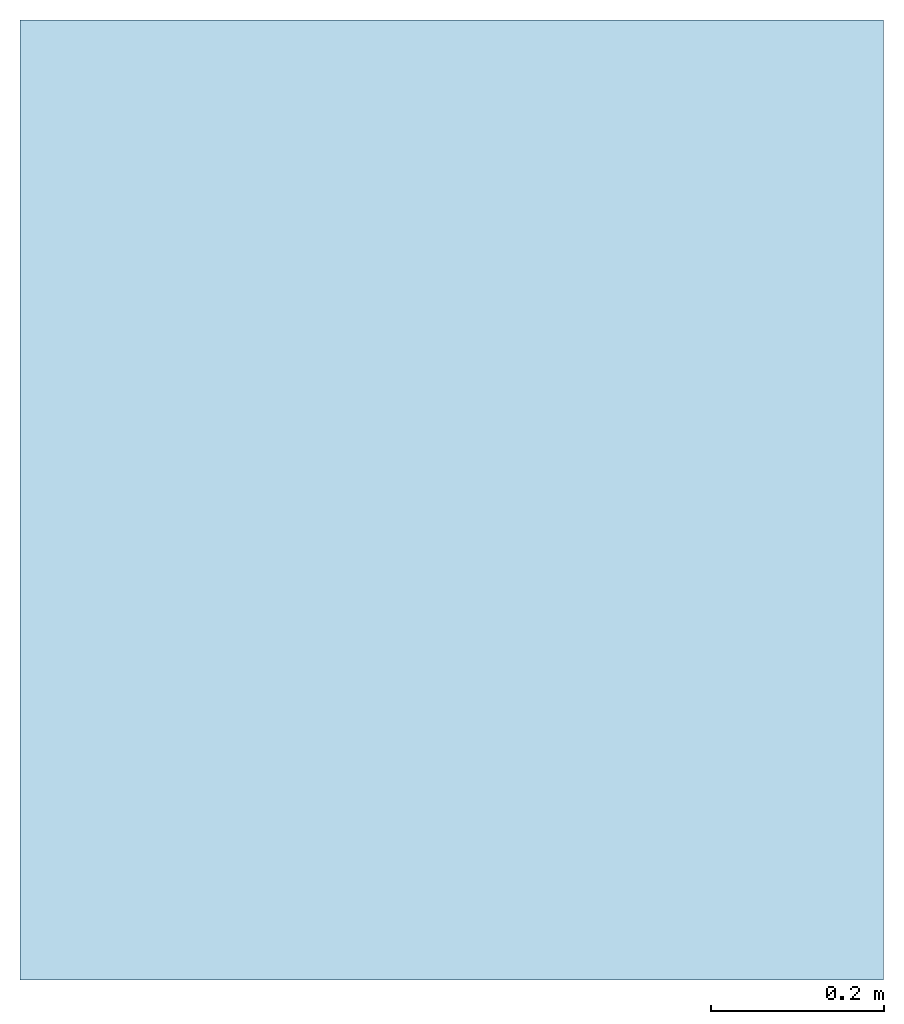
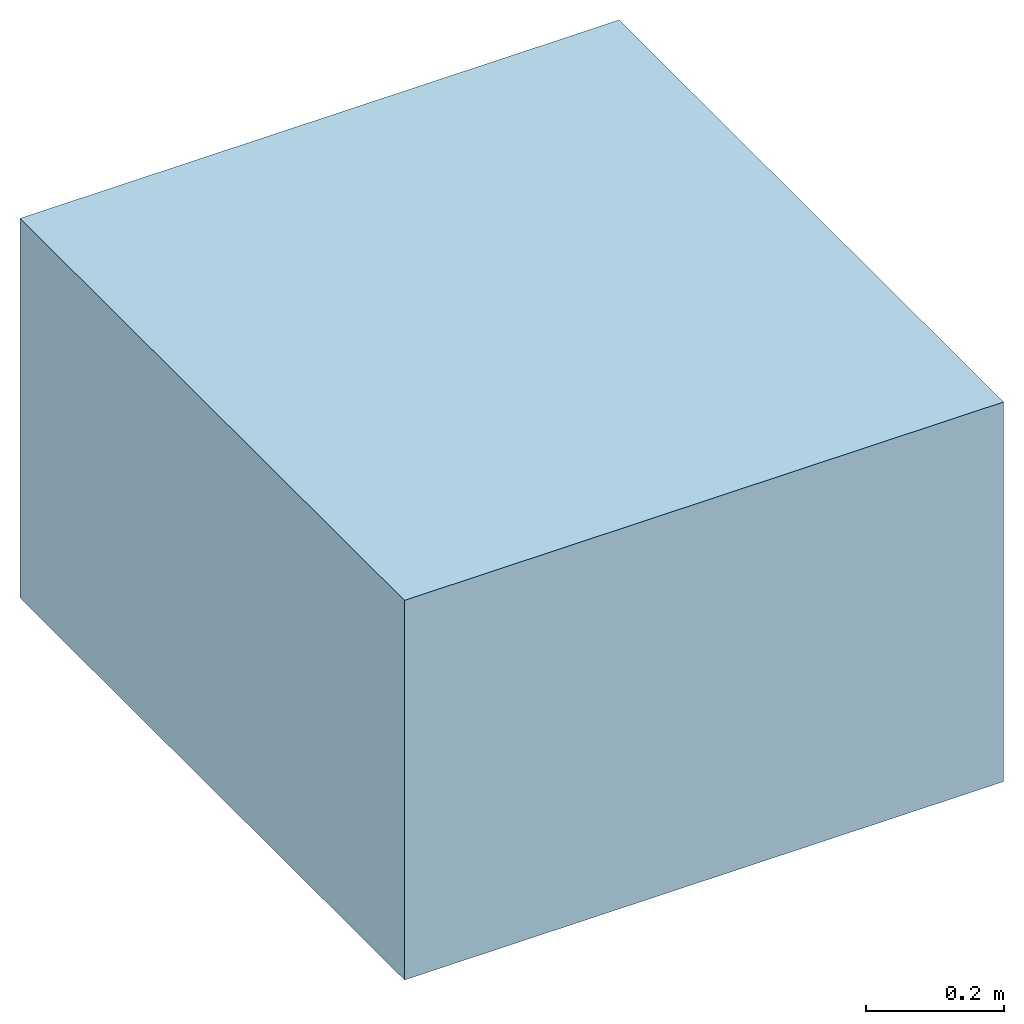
# One storey: 1 slab.
"""IFC4 building model written with IfcOpenShell, lengths in metres."""

import ifcopenshell
import ifcopenshell.guid

model = None  # the IFC model being written
_history = None  # IfcOwnerHistory: only IFC2X3 demands one
_inside = {}  # id of a spatial element -> (the spatial element, [elements in it])
_under = {}  # id of a project, library or spatial element -> (it, [spatial elements below it])
_declared = {}  # id of a project -> (the project, [libraries it declares])
_typed = {}  # id of a type object -> (the type object, [elements of that type])
_made_of = {}  # id of a material, layer set ... -> (it, [elements and type objects made of it])


def new_model(schema):
    """Start an empty IFC model of exactly this schema.

    Asked for "IFC4X3", IfcOpenShell would pick the latest addendum, in which some entities
    have other attributes; the version numbers below select the first issue.
    IFC2X3 requires an IfcOwnerHistory on every rooted entity: one is made here for all.
    """
    global model, _history
    if schema == "IFC4X3":
        model = ifcopenshell.file(schema_version=(4, 3, 0, 0))
    else:
        model = ifcopenshell.file(schema=schema)
    _inside.clear()
    _under.clear()
    _declared.clear()
    _typed.clear()
    _made_of.clear()
    _history = None
    if model.schema == "IFC2X3":
        org = make("IfcOrganization", Name="unknown")
        user = make(
            "IfcPersonAndOrganization",
            ThePerson=make("IfcPerson", FamilyName="unknown"),
            TheOrganization=org,
        )
        app = make(
            "IfcApplication",
            ApplicationDeveloper=org,
            Version="unknown",
            ApplicationFullName="unknown",
            ApplicationIdentifier="unknown",
        )
        _history = make(
            "IfcOwnerHistory",
            OwningUser=user,
            OwningApplication=app,
            ChangeAction="ADDED",
            CreationDate=0,
        )
    return model


def make(cls, **values):
    """One entity of the class cls with the attributes given. An attribute that is None is left unset."""
    return model.create_entity(
        cls, **{name: value for name, value in values.items() if value is not None}
    )


def entity(cls, *values):
    """Any entity or typed value of the class cls, its attributes in the order of the schema. None: left unset."""
    e = model.create_entity(cls)
    for i, value in enumerate(values):
        if value is not None:
            e[i] = value
    return e


def rooted(cls, **values):
    """An entity with a GlobalId (a new one), such as an element, a storey or a relation."""
    return make(cls, GlobalId=ifcopenshell.guid.new(), OwnerHistory=_history, **values)


def si_unit(unit_type, name, prefix=None):
    """IfcSIUnit, for example si_unit("LENGTHUNIT", "METRE", prefix="MILLI")."""
    return make("IfcSIUnit", UnitType=unit_type, Prefix=prefix, Name=name)


def converted_unit(unit_type, name, factor, base, dimensions=None, offset=None):
    """IfcConversionBasedUnit, such as the inch: factor (a typed value) times the base unit."""
    return make(
        "IfcConversionBasedUnit"
        if offset is None
        else "IfcConversionBasedUnitWithOffset",
        ConversionOffset=offset,
        Dimensions=None
        if dimensions is None
        else entity("IfcDimensionalExponents", *dimensions),
        UnitType=unit_type,
        Name=name,
        ConversionFactor=make(
            "IfcMeasureWithUnit", ValueComponent=factor, UnitComponent=base
        ),
    )


def assignment(units):
    """IfcUnitAssignment: the units of a project."""
    return None if units is None else make("IfcUnitAssignment", Units=units)


def point(xyz):
    """IfcCartesianPoint."""
    return None if xyz is None else make("IfcCartesianPoint", Coordinates=xyz)


def direction(xyz):
    """IfcDirection."""
    return None if xyz is None else make("IfcDirection", DirectionRatios=xyz)


def frame(location, z_axis=None, x_axis=None):
    """IfcAxis2Placement3D, a coordinate frame: its origin and axes. An axis left out is left unset."""
    return make(
        "IfcAxis2Placement3D",
        Location=point(location),
        Axis=direction(z_axis),
        RefDirection=direction(x_axis),
    )


def frame_2d(location, x_axis=None):
    """IfcAxis2Placement2D, a coordinate frame in the plane: its origin and x axis."""
    return make(
        "IfcAxis2Placement2D", Location=point(location), RefDirection=direction(x_axis)
    )


def origin():
    """The frame at (0, 0, 0) with its axes left unset."""
    return frame((0.0, 0.0, 0.0))


def place(relative_to, where):
    """IfcLocalPlacement: puts the frame where relative to a parent placement (None: the world)."""
    return make(
        "IfcLocalPlacement", PlacementRelTo=relative_to, RelativePlacement=where
    )


def context(
    kind, dimensions, precision=None, world=None, true_north=None, identifier=None
):
    """IfcGeometricRepresentationContext, for example the 3D "Model" context."""
    return make(
        "IfcGeometricRepresentationContext",
        ContextIdentifier=identifier,
        ContextType=kind,
        CoordinateSpaceDimension=dimensions,
        Precision=precision,
        WorldCoordinateSystem=world,
        TrueNorth=true_north,
    )


def subcontext(parent, identifier, kind, view, scale=None):
    """IfcGeometricRepresentationSubContext, for example "Body" below "Model"."""
    return make(
        "IfcGeometricRepresentationSubContext",
        ContextIdentifier=identifier,
        ContextType=kind,
        ParentContext=parent,
        TargetScale=scale,
        TargetView=view,
    )


def project(units=None, contexts=None):
    """IfcProject with its units and contexts."""
    return rooted(
        "IfcProject",
        Name="project",
        RepresentationContexts=contexts,
        UnitsInContext=assignment(units),
    )


def spatial(cls, under=None, at=None, **own):
    """A site, building, storey or space (cls), placed at a placement, below another one or the project."""
    s = rooted(cls, ObjectPlacement=at, **own)
    if under is not None:
        _under.setdefault(under.id(), (under, []))[1].append(s)
    return s


def profile(cls, at=None, kind="AREA", **sizes):
    """A parametric profile (cls). Its sizes go by their IFC names, for example OverallWidth=200.0."""
    return make(cls, ProfileType=kind, Position=at, **sizes)


def rectangle(**sizes):
    """IfcRectangleProfileDef."""
    return profile("IfcRectangleProfileDef", **sizes)


def extrude(swept, where, along, depth):
    """IfcExtrudedAreaSolid: the profile swept, set in the frame where, extruded along a direction by depth."""
    return make(
        "IfcExtrudedAreaSolid",
        SweptArea=swept,
        Position=where,
        ExtrudedDirection=direction(along),
        Depth=depth,
    )


def shape(context_of_items, identifier, shape_type, items):
    """IfcShapeRepresentation: the items that make up one representation, for example the "Body"."""
    return make(
        "IfcShapeRepresentation",
        ContextOfItems=context_of_items,
        RepresentationIdentifier=identifier,
        RepresentationType=shape_type,
        Items=items,
    )


def material(Name=None, Category=None):
    """IfcMaterial."""
    return make("IfcMaterial", Name=Name, Category=Category)


def made_of(thing, what):
    """Note that an element or type object is made of a material, layer set ...; save() writes the relation."""
    if what is not None:
        _made_of.setdefault(what.id(), (what, []))[1].append(thing)
    return thing


def type_object(cls, material=None, **own):
    """A type object (cls), such as IfcWallType, which elements share."""
    return made_of(rooted(cls, **own), material)


def element(
    cls,
    number,
    at=None,
    inside=None,
    cuts=None,
    type_object=None,
    material=None,
    context=None,
    identifier="Body",
    shape_type=None,
    held_by="IfcProductDefinitionShape",
    body=None,
    shapes=None,
    **own,
):
    """One element of the class cls, such as IfcWall. Its Tag is "e" and its number.

    at: its placement. inside: the storey or other place that contains it. cuts: it is an
    opening in that element (IfcRelVoidsElement). A single representation is given by context,
    identifier, shape_type and body (its items); several are given by shapes. held_by: the class
    of the entity that holds the representations. save() writes the other relations.
    """
    e = rooted(cls, Tag="e%d" % number, ObjectPlacement=at, **own)
    if body is not None:
        shapes = [shape(context, identifier, shape_type, body)]
    if shapes is not None:
        e.Representation = make(held_by, Representations=shapes)
    if inside is not None:
        _inside.setdefault(inside.id(), (inside, []))[1].append(e)
    if cuts is not None:
        rooted(
            "IfcRelVoidsElement", RelatingBuildingElement=cuts, RelatedOpeningElement=e
        )
    if type_object is not None:
        _typed.setdefault(type_object.id(), (type_object, []))[1].append(e)
    return made_of(e, material)


def aggregate(whole, parts):
    """IfcRelAggregates: a whole, such as a stair, and the parts it consists of."""
    return rooted("IfcRelAggregates", RelatingObject=whole, RelatedObjects=parts)


def save(model, path):
    """Write the relations noted so far, then the file.

    IfcRelAggregates (storeys below a building ...), IfcRelContainedInSpatialStructure (elements
    in a storey), IfcRelDefinesByType, IfcRelAssociatesMaterial and IfcRelDeclares: one each for
    every whole, place, type object, material and project.
    """
    for whole, parts in _under.values():
        aggregate(whole, parts)
    for where, things in _inside.values():
        rooted(
            "IfcRelContainedInSpatialStructure",
            RelatedElements=things,
            RelatingStructure=where,
        )
    for kind, things in _typed.values():
        rooted("IfcRelDefinesByType", RelatedObjects=things, RelatingType=kind)
    for what, things in _made_of.values():
        rooted("IfcRelAssociatesMaterial", RelatedObjects=things, RelatingMaterial=what)
    for by, libraries in _declared.values():
        rooted("IfcRelDeclares", RelatingContext=by, RelatedDefinitions=libraries)
    model.write(path)


model = new_model("IFC4")

# Units and contexts
model_context = context("Model", 3, precision=1e-05, world=origin(), true_north=direction((6.123031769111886e-17, 1.0)))
body_context = subcontext(model_context, "Body", "Model", "MODEL_VIEW")
ifc_project = project(units=[si_unit("LENGTHUNIT", "METRE"), converted_unit("PLANEANGLEUNIT", "DEGREE", entity("IfcPlaneAngleMeasure", 0.017453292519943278), si_unit("PLANEANGLEUNIT", "RADIAN"), dimensions=[0, 0, 0, 0, 0, 0, 0]), si_unit("AREAUNIT", "SQUARE_METRE")], contexts=[model_context])

# Site, building, storey
site_placement = place(None, origin())
site = spatial("IfcSite", under=ifc_project, at=site_placement, Name="Default", CompositionType="ELEMENT")
building_placement = place(site_placement, origin())
building = spatial("IfcBuilding", under=site, at=building_placement, CompositionType="ELEMENT")
storey_placement = place(building_placement, origin())
storey = spatial("IfcBuildingStorey", under=building, at=storey_placement, Name="Ebene 0", CompositionType="ELEMENT", Elevation=0.0)

# Slab
ifc_material = material(Name="DB_Magerbeton", Category="DB_Beton")
slab_type = type_object("IfcSlabType", Name="DB_BSK_96C_Fundament_Ecke_aussen_rechts:DB_BSK_96C_Fundament_Ecke_aussen_rechts", PredefinedType="BASESLAB", material=ifc_material)
slab_placement = place(storey_placement, origin())
element("IfcSlab", 1, at=slab_placement, inside=storey, type_object=slab_type, Name="DB_BSK_96C_Fundament_Ecke_aussen_rechts:DB_BSK_96C_Fundament_Ecke_aussen_rechts", ObjectType="DB_BSK_96C_Fundament_Ecke_aussen_rechts:DB_BSK_96C_Fundament_Ecke_aussen_rechts", PredefinedType="BASESLAB", context=body_context, shape_type="SweptSolid", body=[
    extrude(rectangle(XDim=0.9999999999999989, YDim=1.111889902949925, at=frame_2d((2.7755575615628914e-17, 0.0), x_axis=(1.0, 0.0))), frame((0.45442698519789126, 0.525944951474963, -1.9249999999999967), z_axis=(0.0, 0.0, 1.0), x_axis=(-1.0, 0.0, 0.0)), (0.0, 0.0, 1.0), 0.11999999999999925),
    extrude(rectangle(XDim=1.0000000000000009, YDim=1.1118899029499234, at=frame_2d((5.551115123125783e-17, 0.0), x_axis=(1.0, 0.0))), frame((0.45442698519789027, 0.5259449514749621, -1.8049999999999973), z_axis=(0.0, 0.0, 1.0), x_axis=(-1.0, 0.0, 0.0)), (0.0, 0.0, 1.0), 0.5500000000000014),
])

save(model, "model.ifc")
